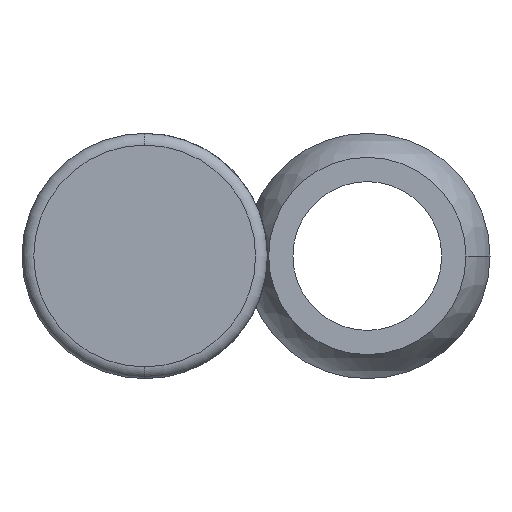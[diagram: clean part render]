
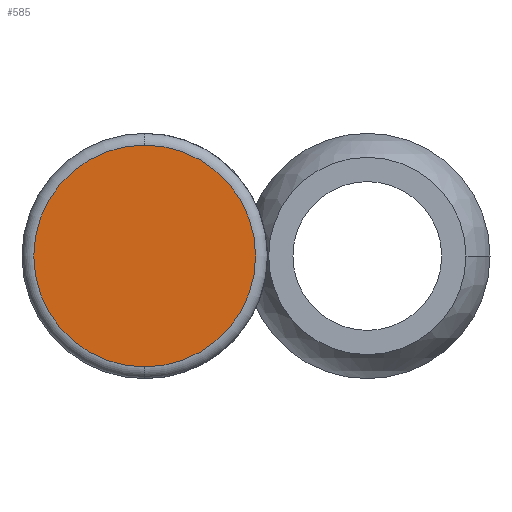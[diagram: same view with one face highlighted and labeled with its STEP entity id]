
A CAD part, front view. The second image highlights one B-rep face of the part: STEP entity #585.
In plain terms, the highlighted planar face has unit normal (0, -1, 0).
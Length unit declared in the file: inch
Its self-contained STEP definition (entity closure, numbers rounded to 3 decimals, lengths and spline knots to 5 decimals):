
#71 = AXIS2_PLACEMENT_3D ( 'NONE', #211, #576, #116 ) ;
#95 = AXIS2_PLACEMENT_3D ( 'NONE', #581, #1147, #382 ) ;
#116 = DIRECTION ( 'NONE',  ( 0., 0., 1. ) ) ;
#211 = CARTESIAN_POINT ( 'NONE',  ( 0., -1.075, 0. ) ) ;
#243 = DIRECTION ( 'NONE',  ( 0., -1., 0. ) ) ;
#248 = VERTEX_POINT ( 'NONE', #423 ) ;
#295 = ORIENTED_EDGE ( 'NONE', *, *, #1012, .T. ) ;
#378 = CARTESIAN_POINT ( 'NONE',  ( 0., -1.075, 0.2825 ) ) ;
#382 = DIRECTION ( 'NONE',  ( 0., 0., 1. ) ) ;
#423 = CARTESIAN_POINT ( 'NONE',  ( 0., -1.075, -0.2825 ) ) ;
#576 = DIRECTION ( 'NONE',  ( 0., -1., 0. ) ) ;
#579 = EDGE_CURVE ( 'NONE', #667, #248, #960, .T. ) ;
#581 = CARTESIAN_POINT ( 'NONE',  ( 0., -1.075, 0. ) ) ;
#585 = ADVANCED_FACE ( 'NONE', ( #908 ), #1139, .F. ) ;
#667 = VERTEX_POINT ( 'NONE', #378 ) ;
#680 = ORIENTED_EDGE ( 'NONE', *, *, #579, .T. ) ;
#701 = AXIS2_PLACEMENT_3D ( 'NONE', #891, #243, #1174 ) ;
#771 = EDGE_LOOP ( 'NONE', ( #680, #295 ) ) ;
#891 = CARTESIAN_POINT ( 'NONE',  ( 0., -1.075, 0. ) ) ;
#908 = FACE_OUTER_BOUND ( 'NONE', #771, .T. ) ;
#960 = CIRCLE ( 'NONE', #71, 0.2825 ) ;
#995 = CIRCLE ( 'NONE', #701, 0.2825 ) ;
#1012 = EDGE_CURVE ( 'NONE', #248, #667, #995, .T. ) ;
#1139 = PLANE ( 'NONE',  #95 ) ;
#1147 = DIRECTION ( 'NONE',  ( 0., 1., 0. ) ) ;
#1174 = DIRECTION ( 'NONE',  ( 0., 0., 1. ) ) ;
